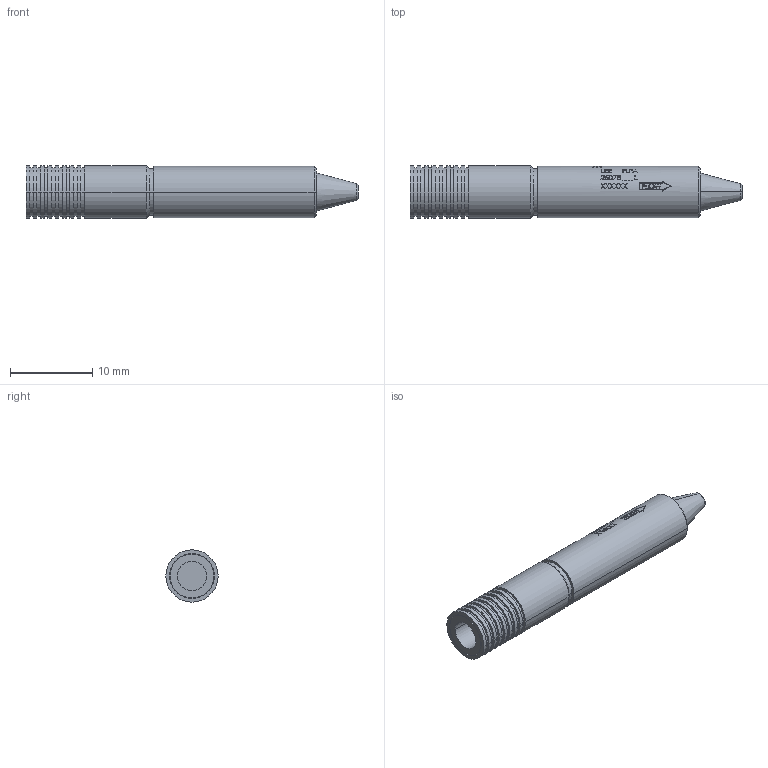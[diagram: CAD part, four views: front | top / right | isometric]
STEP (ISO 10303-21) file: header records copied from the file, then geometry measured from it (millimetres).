
FILE_DESCRIPTION (( 'STEP AP214' ), '1' );
FILE_NAME ('3DFLFA25078--L.STEP', '2021-04-01T17:26:10', ( '' ), ( '' ), 'SwSTEP 2.0', 'SolidWorks 2019', '' );
FILE_SCHEMA (( 'AUTOMOTIVE_DESIGN' ));
Length unit declared in the file: inch
Products named in the file (1): 3DFLFA25078--L
Bounding box: 40.26 x 6.35 x 6.35 mm (x, y, z)
Volume: 1035.8 mm3; surface area: 973.2 mm2
Topology: 1 solids, 1 shells, 394 faces, 1004 edges, 666 vertices
Faces by surface type: plane 171, bspline 137, cylinder 76, cone 8, torus 2
Entity records: 18723 total; most frequent: CARTESIAN_POINT 6143, ORIENTED_EDGE 2008, DIRECTION 1260, EDGE_CURVE 1004, VERTEX_POINT 666, B_SPLINE_CURVE_WITH_KNOTS 460, AXIS2_PLACEMENT_3D 458, EDGE_LOOP 448
